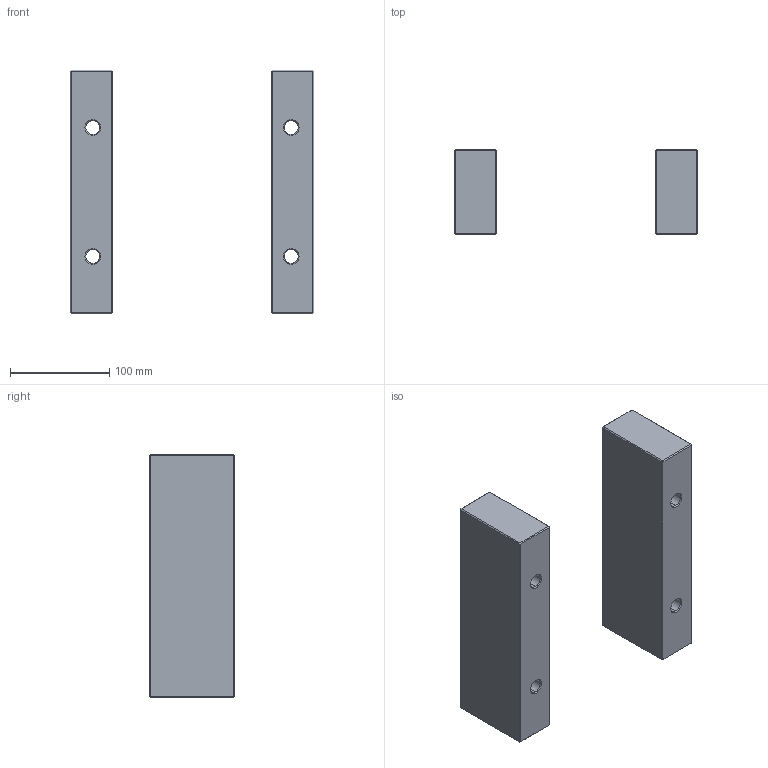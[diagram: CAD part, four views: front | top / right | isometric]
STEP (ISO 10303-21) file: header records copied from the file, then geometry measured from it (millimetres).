
FILE_DESCRIPTION (( 'STEP AP214' ), '1' );
FILE_NAME ('ESP-246X246x86.STEP', '2020-04-14T07:54:52', ( 'August' ), ( '' ), 'SwSTEP 2.0', 'SolidWorks 2018', '' );
FILE_SCHEMA (( 'AUTOMOTIVE_DESIGN' ));
Length unit declared in the file: millimetre
Products named in the file (1): ESP-246X246x86
Bounding box: 246 x 86 x 246 mm (x, y, z)
Volume: 1764787.7 mm3; surface area: 153667.3 mm2
Topology: 2 solids, 2 shells, 76 faces, 152 edges, 80 vertices
Faces by surface type: plane 52, cone 16, cylinder 8
Entity records: 1935 total; most frequent: DIRECTION 338, CARTESIAN_POINT 309, ORIENTED_EDGE 304, EDGE_CURVE 152, VECTOR 120, LINE 120, AXIS2_PLACEMENT_3D 109, EDGE_LOOP 84
